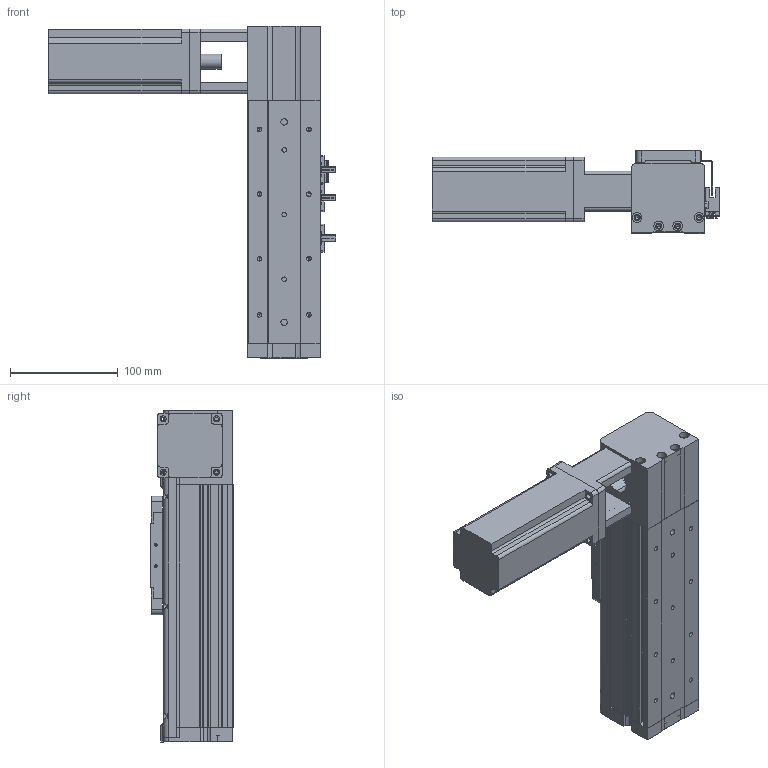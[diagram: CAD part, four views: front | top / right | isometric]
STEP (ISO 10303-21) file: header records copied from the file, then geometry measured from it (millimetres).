
FILE_DESCRIPTION (( 'STEP AP214' ), '1' );
FILE_NAME ('KSD68BS-S50-MLT-CR.STEP', '2019-08-28T03:05:36', ( '微软用户' ), ( '微软中国' ), 'SwSTEP 2.0', 'SolidWorks 2014', '' );
FILE_SCHEMA (( 'AUTOMOTIVE_DESIGN' ));
Length unit declared in the file: millimetre
Products named in the file (13): 100遵鎮湛假蚾啣1; KSD68BS 50行程盖板全封闭; 68遵裔啣揤啣1; 68宽单导轨全封闭丝杆传动安装板1防护罩; KSD68BS 50行程侧板全封闭; 68宽单导轨全封闭同步带端板; 68单导轨全封闭同步带电机座右; 68单导轨全封闭同步带安装板; 感应片68宽全封闭; U倰嫖萇EEㄜSX672; 台达ECMA－C20604AS伺服电机（400W); KSD68BS 50行程底板全封闭; KSD68BS-S50-MLT-CR
Assembly tree (16 placements, depth 2):
  KSD68BS-S50-MLT-CR
    KSD68BS 50行程底板全封闭
    台达ECMA－C20604AS伺服电机（400W)
    U倰嫖萇EEㄜSX672  x3
    感应片68宽全封闭
    68单导轨全封闭同步带安装板
    68单导轨全封闭同步带电机座右
    68宽单导轨全封闭同步带端板
    KSD68BS 50行程侧板全封闭  x2
    68宽单导轨全封闭丝杆传动安装板1防护罩
    68遵裔啣揤啣1  x2
    KSD68BS 50行程盖板全封闭
    100遵鎮湛假蚾啣1
Bounding box: 266.4 x 77 x 308.1 mm (x, y, z)
Volume: 1205856.7 mm3; surface area: 330068.8 mm2
Topology: 17 solids, 17 shells, 1292 faces, 3624 edges, 2329 vertices
Faces by surface type: plane 596, cylinder 568, cone 128
Entity records: 39485 total; most frequent: CARTESIAN_POINT 6553, DIRECTION 5936, ORIENTED_EDGE 5692, EDGE_CURVE 2846, AXIS2_PLACEMENT_3D 2102, VERTEX_POINT 1867, VECTOR 1732, LINE 1732
